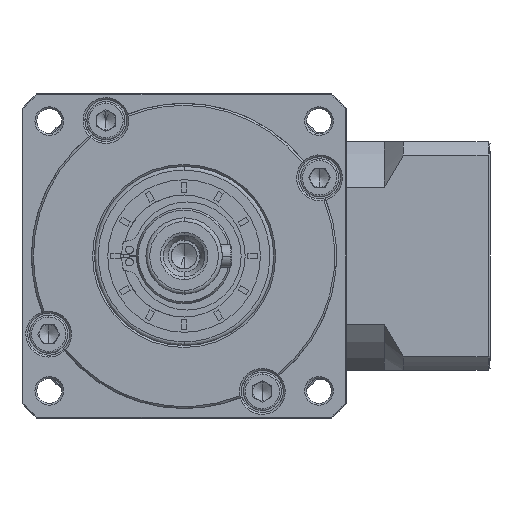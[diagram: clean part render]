
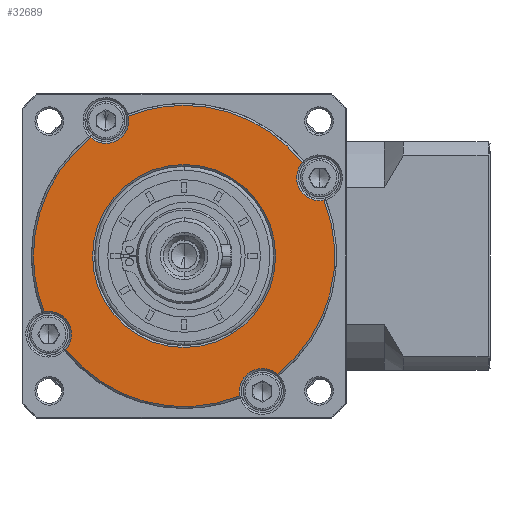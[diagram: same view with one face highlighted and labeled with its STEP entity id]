
A CAD part, left-side view. The second image highlights one B-rep face of the part: STEP entity #32689.
In plain terms, the highlighted planar face has unit normal (-1, 0, 0).
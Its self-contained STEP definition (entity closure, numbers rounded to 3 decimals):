
#2928 = CARTESIAN_POINT ( 'NONE',  ( -105.79, -28.189, -157.944 ) ) ;
#3734 = VERTEX_POINT ( 'NONE', #38162 ) ;
#3903 = VERTEX_POINT ( 'NONE', #82140 ) ;
#5739 = ORIENTED_EDGE ( 'NONE', *, *, #26069, .T. ) ;
#6200 = EDGE_LOOP ( 'NONE', ( #152404, #9863 ) ) ;
#7991 = ORIENTED_EDGE ( 'NONE', *, *, #77156, .F. ) ;
#9863 = ORIENTED_EDGE ( 'NONE', *, *, #110227, .T. ) ;
#10594 = CARTESIAN_POINT ( 'NONE',  ( -105.79, -7.689, -122.437 ) ) ;
#10866 = VERTEX_POINT ( 'NONE', #57131 ) ;
#13753 = EDGE_CURVE ( 'NONE', #88556, #81513, #133135, .T. ) ;
#13788 = DIRECTION ( 'NONE',  ( 1., 0., 0. ) ) ;
#16594 = DIRECTION ( 'NONE',  ( 0., 0., -1. ) ) ;
#17144 = CARTESIAN_POINT ( 'NONE',  ( -105.79, -43.196, -107.937 ) ) ;
#19612 = AXIS2_PLACEMENT_3D ( 'NONE', #142767, #61626, #156393 ) ;
#22041 = CARTESIAN_POINT ( 'NONE',  ( -105.79, -7.689, -122.437 ) ) ;
#22477 = PLANE ( 'NONE',  #98717 ) ;
#22510 = CIRCLE ( 'NONE', #121558, 6. ) ;
#23350 = CIRCLE ( 'NONE', #85074, 6. ) ;
#23381 = AXIS2_PLACEMENT_3D ( 'NONE', #152324, #71302, #165942 ) ;
#23838 = CARTESIAN_POINT ( 'NONE',  ( -105.79, 29.007, -137.055 ) ) ;
#23945 = ORIENTED_EDGE ( 'NONE', *, *, #112108, .T. ) ;
#24256 = DIRECTION ( 'NONE',  ( 0., 0., -1. ) ) ;
#26069 = EDGE_CURVE ( 'NONE', #157446, #88556, #23350, .T. ) ;
#26530 = DIRECTION ( 'NONE',  ( 1., 0., 0. ) ) ;
#27838 = FACE_BOUND ( 'NONE', #6200, .T. ) ;
#28478 = DIRECTION ( 'NONE',  ( 1., 0., 0. ) ) ;
#29780 = AXIS2_PLACEMENT_3D ( 'NONE', #2928, #97780, #16594 ) ;
#30808 = CIRCLE ( 'NONE', #29780, 6. ) ;
#32114 = AXIS2_PLACEMENT_3D ( 'NONE', #109597, #28478, #123241 ) ;
#32689 = ADVANCED_FACE ( 'NONE', ( #135953, #27838 ), #22477, .T. ) ;
#32857 = CARTESIAN_POINT ( 'NONE',  ( -105.79, 16.781, -91.429 ) ) ;
#35628 = DIRECTION ( 'NONE',  ( 0., 1., 0. ) ) ;
#35922 = EDGE_CURVE ( 'NONE', #169489, #102585, #94175, .T. ) ;
#36144 = CIRCLE ( 'NONE', #116153, 39.5 ) ;
#38162 = CARTESIAN_POINT ( 'NONE',  ( -105.79, -32.158, -153.444 ) ) ;
#40014 = DIRECTION ( 'NONE',  ( 1., 0., 0. ) ) ;
#41477 = EDGE_CURVE ( 'NONE', #51863, #142932, #36144, .T. ) ;
#41493 = CARTESIAN_POINT ( 'NONE',  ( -105.79, -43.196, -101.937 ) ) ;
#43420 = AXIS2_PLACEMENT_3D ( 'NONE', #94973, #13788, #108558 ) ;
#46940 = ORIENTED_EDGE ( 'NONE', *, *, #41477, .F. ) ;
#51863 = VERTEX_POINT ( 'NONE', #155483 ) ;
#55183 = DIRECTION ( 'NONE',  ( 0., 0., -1. ) ) ;
#55706 = AXIS2_PLACEMENT_3D ( 'NONE', #121222, #40014, #134858 ) ;
#56684 = DIRECTION ( 'NONE',  ( 1., 0., 0. ) ) ;
#57131 = CARTESIAN_POINT ( 'NONE',  ( -105.79, 6.93, -85.741 ) ) ;
#59886 = EDGE_CURVE ( 'NONE', #121333, #102585, #110452, .T. ) ;
#61626 = DIRECTION ( 'NONE',  ( 1., 0., 0. ) ) ;
#63082 = VERTEX_POINT ( 'NONE', #120916 ) ;
#64632 = EDGE_CURVE ( 'NONE', #3903, #81513, #66789, .T. ) ;
#65792 = VERTEX_POINT ( 'NONE', #81286 ) ;
#66789 = CIRCLE ( 'NONE', #101817, 39.5 ) ;
#69065 = DIRECTION ( 'NONE',  ( 1., 0., 0. ) ) ;
#70074 = CARTESIAN_POINT ( 'NONE',  ( -105.79, -7.689, -122.437 ) ) ;
#71302 = DIRECTION ( 'NONE',  ( 1., 0., 0. ) ) ;
#71649 = CARTESIAN_POINT ( 'NONE',  ( -105.79, -22.308, -159.132 ) ) ;
#72041 = DIRECTION ( 'NONE',  ( 1., 0., 0. ) ) ;
#75019 = ORIENTED_EDGE ( 'NONE', *, *, #13753, .T. ) ;
#75232 = EDGE_LOOP ( 'NONE', ( #7991, #23945, #167923, #46940, #170401, #127287, #133113, #153031, #76563, #5739, #75019, #121449 ) ) ;
#76563 = ORIENTED_EDGE ( 'NONE', *, *, #80525, .F. ) ;
#77156 = EDGE_CURVE ( 'NONE', #10866, #3903, #143845, .T. ) ;
#80388 = CARTESIAN_POINT ( 'NONE',  ( -105.79, -43.196, -101.937 ) ) ;
#80525 = EDGE_CURVE ( 'NONE', #157446, #3734, #127373, .T. ) ;
#81286 = CARTESIAN_POINT ( 'NONE',  ( -105.79, 16.311, -122.437 ) ) ;
#81513 = VERTEX_POINT ( 'NONE', #133751 ) ;
#82140 = CARTESIAN_POINT ( 'NONE',  ( -105.79, -7.689, -82.937 ) ) ;
#83703 = DIRECTION ( 'NONE',  ( 0., 0., 1. ) ) ;
#85074 = AXIS2_PLACEMENT_3D ( 'NONE', #41493, #136360, #55183 ) ;
#88556 = VERTEX_POINT ( 'NONE', #17144 ) ;
#90099 = CIRCLE ( 'NONE', #43420, 24. ) ;
#93969 = DIRECTION ( 'NONE',  ( 0., 0., -1. ) ) ;
#94175 = CIRCLE ( 'NONE', #23381, 6. ) ;
#94973 = CARTESIAN_POINT ( 'NONE',  ( -105.79, -7.689, -122.437 ) ) ;
#97780 = DIRECTION ( 'NONE',  ( 1., 0., 0. ) ) ;
#98717 = AXIS2_PLACEMENT_3D ( 'NONE', #10594, #105374, #24256 ) ;
#101817 = AXIS2_PLACEMENT_3D ( 'NONE', #70074, #164695, #83703 ) ;
#102585 = VERTEX_POINT ( 'NONE', #153918 ) ;
#104514 = AXIS2_PLACEMENT_3D ( 'NONE', #153050, #72041, #166668 ) ;
#105374 = DIRECTION ( 'NONE',  ( -1., 0., 0. ) ) ;
#106408 = CIRCLE ( 'NONE', #104514, 6. ) ;
#107658 = CARTESIAN_POINT ( 'NONE',  ( -105.79, -7.689, -122.437 ) ) ;
#108558 = DIRECTION ( 'NONE',  ( 0., -1., 0. ) ) ;
#109597 = CARTESIAN_POINT ( 'NONE',  ( -105.79, -7.689, -122.437 ) ) ;
#110227 = EDGE_CURVE ( 'NONE', #65792, #63082, #175260, .T. ) ;
#110452 = CIRCLE ( 'NONE', #55706, 39.5 ) ;
#112108 = EDGE_CURVE ( 'NONE', #10866, #119865, #106408, .T. ) ;
#116153 = AXIS2_PLACEMENT_3D ( 'NONE', #22041, #116763, #35628 ) ;
#116763 = DIRECTION ( 'NONE',  ( 1., 0., 0. ) ) ;
#119865 = VERTEX_POINT ( 'NONE', #171774 ) ;
#120801 = AXIS2_PLACEMENT_3D ( 'NONE', #107658, #26530, #121272 ) ;
#120916 = CARTESIAN_POINT ( 'NONE',  ( -105.79, -31.689, -122.437 ) ) ;
#121222 = CARTESIAN_POINT ( 'NONE',  ( -105.79, -7.689, -122.437 ) ) ;
#121272 = DIRECTION ( 'NONE',  ( 0., 0., 1. ) ) ;
#121333 = VERTEX_POINT ( 'NONE', #71649 ) ;
#121449 = ORIENTED_EDGE ( 'NONE', *, *, #64632, .F. ) ;
#121558 = AXIS2_PLACEMENT_3D ( 'NONE', #137887, #56684, #151482 ) ;
#123241 = DIRECTION ( 'NONE',  ( 0., -1., 0. ) ) ;
#125310 = AXIS2_PLACEMENT_3D ( 'NONE', #80388, #175083, #93969 ) ;
#126299 = EDGE_CURVE ( 'NONE', #169489, #51863, #143460, .T. ) ;
#127287 = ORIENTED_EDGE ( 'NONE', *, *, #35922, .T. ) ;
#127373 = CIRCLE ( 'NONE', #132740, 39.5 ) ;
#132740 = AXIS2_PLACEMENT_3D ( 'NONE', #150075, #69065, #163700 ) ;
#133113 = ORIENTED_EDGE ( 'NONE', *, *, #59886, .F. ) ;
#133135 = CIRCLE ( 'NONE', #125310, 6. ) ;
#133751 = CARTESIAN_POINT ( 'NONE',  ( -105.79, -38.697, -97.967 ) ) ;
#134858 = DIRECTION ( 'NONE',  ( 0., 0., 1. ) ) ;
#135953 = FACE_OUTER_BOUND ( 'NONE', #75232, .T. ) ;
#136360 = DIRECTION ( 'NONE',  ( 1., 0., 0. ) ) ;
#137887 = CARTESIAN_POINT ( 'NONE',  ( -105.79, 12.811, -86.929 ) ) ;
#142767 = CARTESIAN_POINT ( 'NONE',  ( -105.79, -7.689, -122.437 ) ) ;
#142932 = VERTEX_POINT ( 'NONE', #32857 ) ;
#143460 = CIRCLE ( 'NONE', #19612, 39.5 ) ;
#143845 = CIRCLE ( 'NONE', #120801, 39.5 ) ;
#144198 = EDGE_CURVE ( 'NONE', #63082, #65792, #90099, .T. ) ;
#150075 = CARTESIAN_POINT ( 'NONE',  ( -105.79, -7.689, -122.437 ) ) ;
#151482 = DIRECTION ( 'NONE',  ( 0., 0., -1. ) ) ;
#152324 = CARTESIAN_POINT ( 'NONE',  ( -105.79, 27.818, -142.937 ) ) ;
#152404 = ORIENTED_EDGE ( 'NONE', *, *, #144198, .T. ) ;
#153031 = ORIENTED_EDGE ( 'NONE', *, *, #163224, .T. ) ;
#153050 = CARTESIAN_POINT ( 'NONE',  ( -105.79, 12.811, -86.929 ) ) ;
#153918 = CARTESIAN_POINT ( 'NONE',  ( -105.79, 23.319, -146.906 ) ) ;
#155483 = CARTESIAN_POINT ( 'NONE',  ( -105.79, 31.811, -122.437 ) ) ;
#156393 = DIRECTION ( 'NONE',  ( 0., 1., 0. ) ) ;
#156778 = EDGE_CURVE ( 'NONE', #119865, #142932, #22510, .T. ) ;
#157446 = VERTEX_POINT ( 'NONE', #162473 ) ;
#162473 = CARTESIAN_POINT ( 'NONE',  ( -105.79, -44.384, -107.818 ) ) ;
#163224 = EDGE_CURVE ( 'NONE', #121333, #3734, #30808, .T. ) ;
#163700 = DIRECTION ( 'NONE',  ( 0., 0., 1. ) ) ;
#164695 = DIRECTION ( 'NONE',  ( 1., 0., 0. ) ) ;
#165942 = DIRECTION ( 'NONE',  ( 0., 0., -1. ) ) ;
#166668 = DIRECTION ( 'NONE',  ( 0., 0., -1. ) ) ;
#167923 = ORIENTED_EDGE ( 'NONE', *, *, #156778, .T. ) ;
#169489 = VERTEX_POINT ( 'NONE', #23838 ) ;
#170401 = ORIENTED_EDGE ( 'NONE', *, *, #126299, .F. ) ;
#171774 = CARTESIAN_POINT ( 'NONE',  ( -105.79, 12.811, -92.929 ) ) ;
#175083 = DIRECTION ( 'NONE',  ( 1., 0., 0. ) ) ;
#175260 = CIRCLE ( 'NONE', #32114, 24. ) ;
